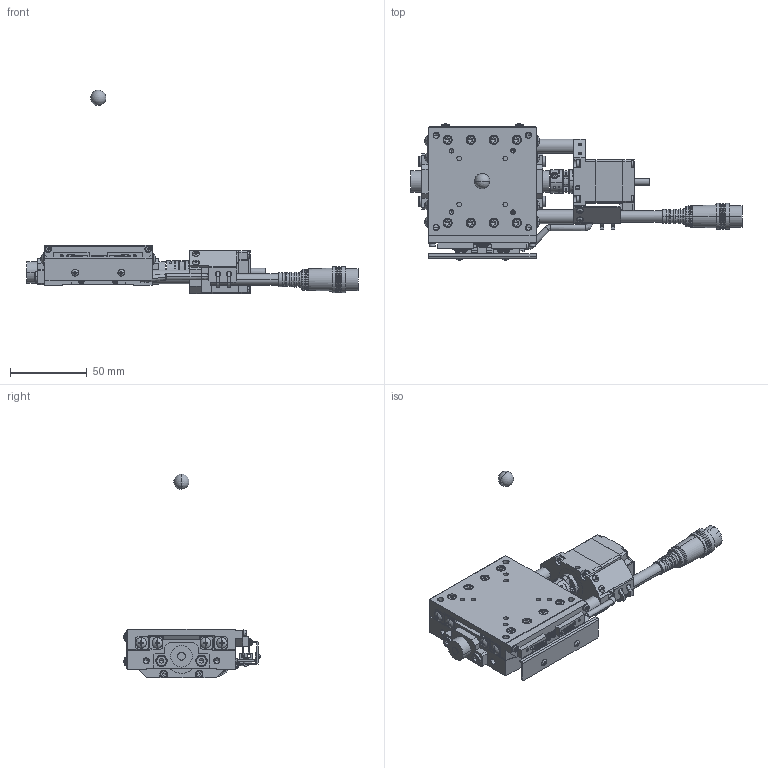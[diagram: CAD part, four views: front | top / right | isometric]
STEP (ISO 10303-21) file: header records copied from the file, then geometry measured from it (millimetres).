
FILE_DESCRIPTION( (''), '2;1');
FILE_NAME ('SA07A-R2M01-R.stp','2022-01-24T14:31:08',(''),(''),'spGate 17.5.5','','');
FILE_SCHEMA (('AUTOMOTIVE_DESIGN'));
Length unit declared in the file: millimetre
Products named in the file (8): Assembly; SA07A-R2M01-R-prt0; SA07A-R2M01-R-prt1; SA07A-R2M01-R-prt2; SA07A-R2M01-R-prt3; SA07A-R2M01-R-prt4; SA07A-R2M01-R-prt5; SA07A-R2M01-R-prt6
Assembly tree (7 placements, depth 2):
  Assembly
    SA07A-R2M01-R-prt0
    SA07A-R2M01-R-prt1
    SA07A-R2M01-R-prt2
    SA07A-R2M01-R-prt3
    SA07A-R2M01-R-prt4
    SA07A-R2M01-R-prt5
    SA07A-R2M01-R-prt6
Bounding box: 216 x 88.66 x 132.5 mm (x, y, z)
Volume: 182541.6 mm3; surface area: 64434.5 mm2
Topology: 7 solids, 7 shells, 2931 faces, 7519 edges, 4733 vertices
Faces by surface type: plane 1832, cylinder 691, bspline 360, sphere 48
Entity records: 150689 total; most frequent: CARTESIAN_POINT 21542, ORIENTED_EDGE 14856, DIRECTION 13953, COLOUR_RGB 10364, PRESENTATION_STYLE_ASSIGNMENT 10364, STYLED_ITEM 10364, EDGE_CURVE 7428, DRAUGHTING_PRE_DEFINED_CURVE_FONT 7428
